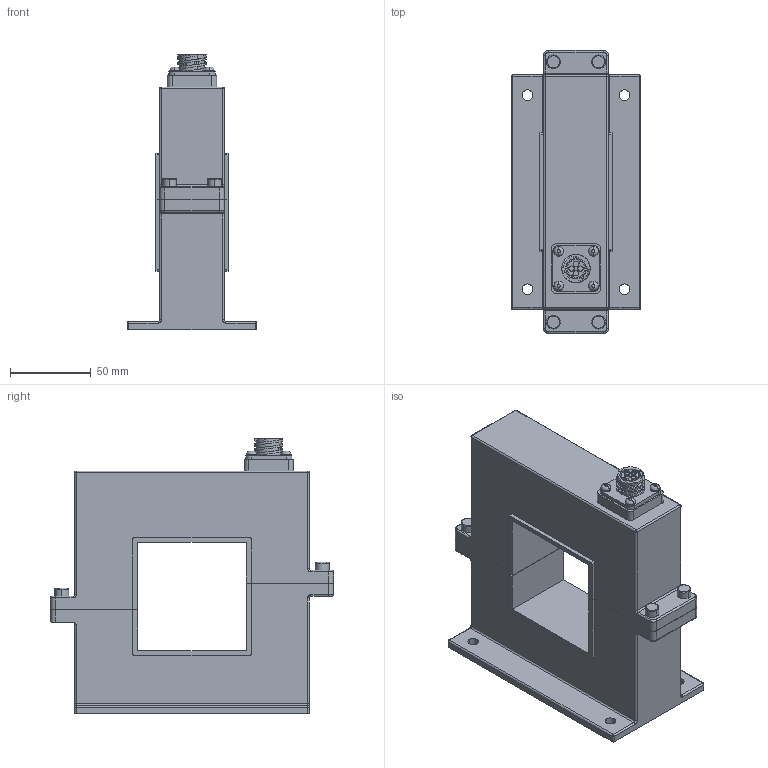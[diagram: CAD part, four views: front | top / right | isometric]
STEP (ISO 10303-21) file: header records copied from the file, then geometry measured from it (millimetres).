
FILE_DESCRIPTION(('Creo Elements/Direct Modeling STEP Export'),'2;1');
FILE_NAME('LA_200-SD.stp','2014-07-22T 9:35:21',(''),(''),'Creo Elements/Direct Modeling STEP processor for AP214 (Solid Model)','Creo Elements/Direct Modeling 17.0E 05-Feb-2012 (C) Parametric Technology GmbH','');
FILE_SCHEMA(('AUTOMOTIVE_DESIGN { 1 0 10303 214 1 1 1 1 }'));
Length unit declared in the file: millimetre
Products named in the file (1): blackbox
Bounding box: 80 x 175 x 170.17 mm (x, y, z)
Volume: 753275.3 mm3; surface area: 89864.3 mm2
Topology: 1 solids, 1 shells, 321 faces, 812 edges, 509 vertices
Faces by surface type: plane 137, cylinder 127, torus 39, bspline 10, sphere 8
Entity records: 10309 total; most frequent: CARTESIAN_POINT 2824, ORIENTED_EDGE 1608, DIRECTION 1506, EDGE_CURVE 804, AXIS2_PLACEMENT_3D 539, VERTEX_POINT 509, VECTOR 428, LINE 428
